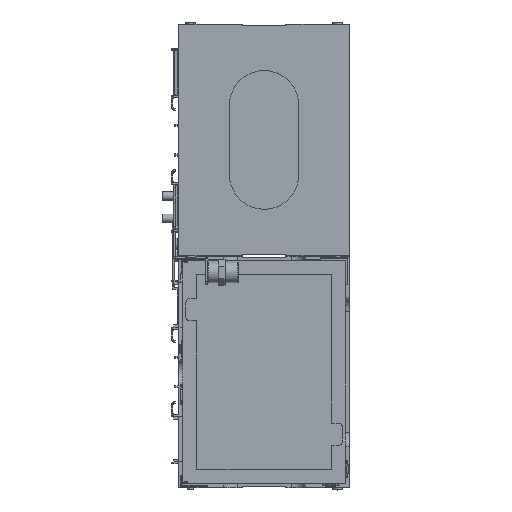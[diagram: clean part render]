
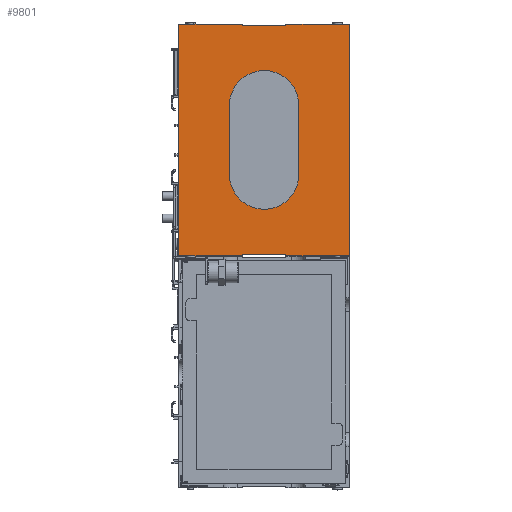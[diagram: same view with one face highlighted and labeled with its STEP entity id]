
A CAD part, top view. The second image highlights one B-rep face of the part: STEP entity #9801.
In plain terms, the highlighted planar face has unit normal (0, 0, 1).
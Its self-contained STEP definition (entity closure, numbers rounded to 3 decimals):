
#6896=FACE_BOUND('',#20865,.T.);
#6897=FACE_BOUND('',#20866,.T.);
#8143=CIRCLE('',#87008,25.);
#8144=CIRCLE('',#87011,25.);
#9801=ADVANCED_FACE('',(#6896,#6897),#13626,.F.);
#13626=PLANE('',#87023);
#20865=EDGE_LOOP('',(#30392,#30393,#30394,#30395));
#20866=EDGE_LOOP('',(#30396,#30397,#30398,#30399,#30400,#30401,#30402,#30403,
#30404,#30405,#30406,#30407));
#30392=ORIENTED_EDGE('',*,*,#57896,.F.);
#30393=ORIENTED_EDGE('',*,*,#57894,.F.);
#30394=ORIENTED_EDGE('',*,*,#57892,.T.);
#30395=ORIENTED_EDGE('',*,*,#57890,.F.);
#30396=ORIENTED_EDGE('',*,*,#57914,.T.);
#30397=ORIENTED_EDGE('',*,*,#57915,.F.);
#30398=ORIENTED_EDGE('',*,*,#57916,.T.);
#30399=ORIENTED_EDGE('',*,*,#57917,.T.);
#30400=ORIENTED_EDGE('',*,*,#57918,.F.);
#30401=ORIENTED_EDGE('',*,*,#57919,.F.);
#30402=ORIENTED_EDGE('',*,*,#57920,.T.);
#30403=ORIENTED_EDGE('',*,*,#57672,.T.);
#30404=ORIENTED_EDGE('',*,*,#57921,.T.);
#30405=ORIENTED_EDGE('',*,*,#57922,.F.);
#30406=ORIENTED_EDGE('',*,*,#57923,.T.);
#30407=ORIENTED_EDGE('',*,*,#57924,.F.);
#49031=VERTEX_POINT('',#117579);
#49032=VERTEX_POINT('',#117581);
#49218=VERTEX_POINT('',#118019);
#49219=VERTEX_POINT('',#118021);
#49220=VERTEX_POINT('',#118025);
#49221=VERTEX_POINT('',#118029);
#49232=VERTEX_POINT('',#118071);
#49233=VERTEX_POINT('',#118072);
#49234=VERTEX_POINT('',#118074);
#49235=VERTEX_POINT('',#118076);
#49236=VERTEX_POINT('',#118078);
#49237=VERTEX_POINT('',#118080);
#49238=VERTEX_POINT('',#118082);
#49239=VERTEX_POINT('',#118085);
#49240=VERTEX_POINT('',#118087);
#49241=VERTEX_POINT('',#118089);
#57672=EDGE_CURVE('',#49032,#49031,#68701,.T.);
#57890=EDGE_CURVE('',#49218,#49219,#8143,.T.);
#57892=EDGE_CURVE('',#49220,#49219,#68879,.T.);
#57894=EDGE_CURVE('',#49220,#49221,#8144,.T.);
#57896=EDGE_CURVE('',#49221,#49218,#68882,.T.);
#57914=EDGE_CURVE('',#49232,#49233,#68900,.T.);
#57915=EDGE_CURVE('',#49234,#49233,#68901,.T.);
#57916=EDGE_CURVE('',#49234,#49235,#68902,.T.);
#57917=EDGE_CURVE('',#49235,#49236,#68903,.T.);
#57918=EDGE_CURVE('',#49237,#49236,#68904,.T.);
#57919=EDGE_CURVE('',#49238,#49237,#68905,.T.);
#57920=EDGE_CURVE('',#49238,#49032,#68906,.T.);
#57921=EDGE_CURVE('',#49031,#49239,#68907,.T.);
#57922=EDGE_CURVE('',#49240,#49239,#68908,.T.);
#57923=EDGE_CURVE('',#49240,#49241,#68909,.T.);
#57924=EDGE_CURVE('',#49232,#49241,#68910,.T.);
#68701=LINE('',#117580,#78354);
#68879=LINE('',#118024,#78532);
#68882=LINE('',#118032,#78535);
#68900=LINE('',#118070,#78553);
#68901=LINE('',#118073,#78554);
#68902=LINE('',#118075,#78555);
#68903=LINE('',#118077,#78556);
#68904=LINE('',#118079,#78557);
#68905=LINE('',#118081,#78558);
#68906=LINE('',#118083,#78559);
#68907=LINE('',#118084,#78560);
#68908=LINE('',#118086,#78561);
#68909=LINE('',#118088,#78562);
#68910=LINE('',#118090,#78563);
#78354=VECTOR('',#96160,1.);
#78532=VECTOR('',#96466,1.);
#78535=VECTOR('',#96475,1.);
#78553=VECTOR('',#96513,1.);
#78554=VECTOR('',#96514,1.);
#78555=VECTOR('',#96515,1.);
#78556=VECTOR('',#96516,1.);
#78557=VECTOR('',#96517,1.);
#78558=VECTOR('',#96518,1.);
#78559=VECTOR('',#96519,1.);
#78560=VECTOR('',#96520,1.);
#78561=VECTOR('',#96521,1.);
#78562=VECTOR('',#96522,1.);
#78563=VECTOR('',#96523,1.);
#87008=AXIS2_PLACEMENT_3D('',#118020,#96461,#96462);
#87011=AXIS2_PLACEMENT_3D('',#118028,#96470,#96471);
#87023=AXIS2_PLACEMENT_3D('',#118091,#96524,#96525);
#96160=DIRECTION('',(0.,-1.,0.));
#96461=DIRECTION('',(0.,0.,1.));
#96462=DIRECTION('',(1.,0.,0.));
#96466=DIRECTION('',(0.,-1.,0.));
#96470=DIRECTION('',(0.,0.,1.));
#96471=DIRECTION('',(1.,0.,0.));
#96475=DIRECTION('',(0.,-1.,0.));
#96513=DIRECTION('',(1.,0.,0.));
#96514=DIRECTION('',(0.,-1.,0.));
#96515=DIRECTION('',(-1.,0.,0.));
#96516=DIRECTION('',(-0.087,-0.996,0.));
#96517=DIRECTION('',(1.,0.,0.));
#96518=DIRECTION('',(0.087,-0.996,0.));
#96519=DIRECTION('',(-1.,0.,0.));
#96520=DIRECTION('',(1.,0.,0.));
#96521=DIRECTION('',(-0.087,-0.996,0.));
#96522=DIRECTION('',(1.,0.,0.));
#96523=DIRECTION('',(-0.087,0.996,0.));
#96524=DIRECTION('',(0.,0.,-1.));
#96525=DIRECTION('',(1.,0.,0.));
#117579=CARTESIAN_POINT('',(-61.5,316.5,105.25));
#117580=CARTESIAN_POINT('',(-61.5,393.5,105.25));
#117581=CARTESIAN_POINT('',(-61.5,483.5,105.25));
#118019=CARTESIAN_POINT('',(-25.,375.,105.25));
#118020=CARTESIAN_POINT('',(0.,375.,105.25));
#118021=CARTESIAN_POINT('',(25.,375.,105.25));
#118024=CARTESIAN_POINT('',(25.,400.,105.25));
#118025=CARTESIAN_POINT('',(25.,425.,105.25));
#118028=CARTESIAN_POINT('',(0.,425.,105.25));
#118029=CARTESIAN_POINT('',(-25.,425.,105.25));
#118032=CARTESIAN_POINT('',(-25.,400.,105.25));
#118070=CARTESIAN_POINT('',(5.5,316.5,105.25));
#118071=CARTESIAN_POINT('',(15.631,316.5,105.25));
#118072=CARTESIAN_POINT('',(61.5,316.5,105.25));
#118073=CARTESIAN_POINT('',(61.5,393.5,105.25));
#118074=CARTESIAN_POINT('',(61.5,483.5,105.25));
#118075=CARTESIAN_POINT('',(5.5,483.5,105.25));
#118076=CARTESIAN_POINT('',(15.631,483.5,105.25));
#118077=CARTESIAN_POINT('',(15.5,482.,105.25));
#118078=CARTESIAN_POINT('',(15.544,482.5,105.25));
#118079=CARTESIAN_POINT('',(0.,482.5,105.25));
#118080=CARTESIAN_POINT('',(-15.544,482.5,105.25));
#118081=CARTESIAN_POINT('',(-15.5,482.,105.25));
#118082=CARTESIAN_POINT('',(-15.631,483.5,105.25));
#118083=CARTESIAN_POINT('',(5.5,483.5,105.25));
#118084=CARTESIAN_POINT('',(5.5,316.5,105.25));
#118085=CARTESIAN_POINT('',(-15.631,316.5,105.25));
#118086=CARTESIAN_POINT('',(-15.5,318.,105.25));
#118087=CARTESIAN_POINT('',(-15.544,317.5,105.25));
#118088=CARTESIAN_POINT('',(0.,317.5,105.25));
#118089=CARTESIAN_POINT('',(15.544,317.5,105.25));
#118090=CARTESIAN_POINT('',(15.5,318.,105.25));
#118091=CARTESIAN_POINT('',(0.,400.,105.25));
